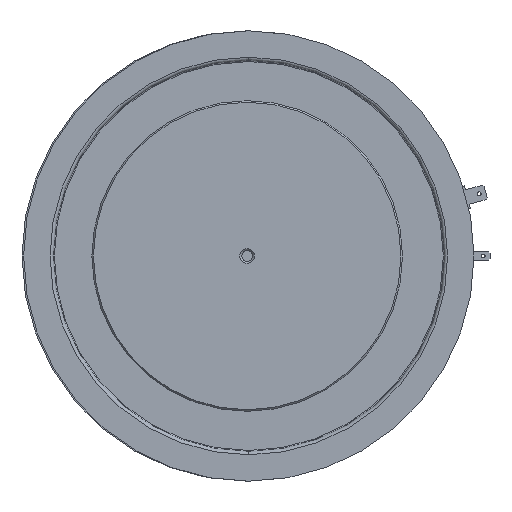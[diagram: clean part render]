
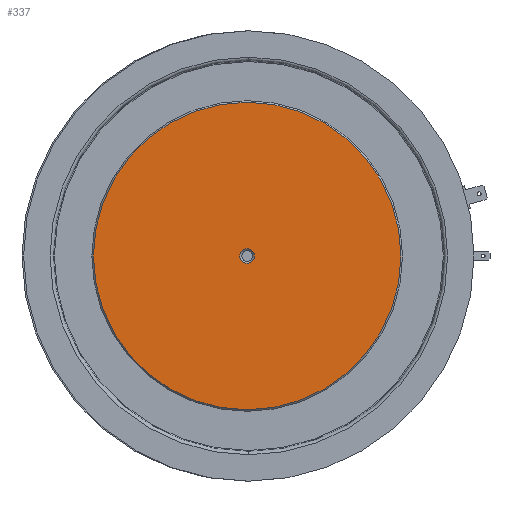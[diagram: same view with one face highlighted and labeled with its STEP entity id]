
A CAD part, front view. The second image highlights one B-rep face of the part: STEP entity #337.
In plain terms, the highlighted planar face has unit normal (0, -1, 0).
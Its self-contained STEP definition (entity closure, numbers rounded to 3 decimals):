
#322 = DIRECTION ( 'NONE',  ( -1., 0., 0. ) ) ;
#337 = ADVANCED_FACE ( 'NONE', ( #3325, #3488 ), #3814, .F. ) ;
#338 = EDGE_LOOP ( 'NONE', ( #2592, #1079 ) ) ;
#424 = VERTEX_POINT ( 'NONE', #1798 ) ;
#1079 = ORIENTED_EDGE ( 'NONE', *, *, #6461, .F. ) ;
#1329 = EDGE_CURVE ( 'NONE', #2764, #424, #4462, .T. ) ;
#1508 = CARTESIAN_POINT ( 'NONE',  ( 0., -35., 0. ) ) ;
#1703 = CARTESIAN_POINT ( 'NONE',  ( -2.35, -35., 0. ) ) ;
#1798 = CARTESIAN_POINT ( 'NONE',  ( 2.35, -35., 0. ) ) ;
#2040 = DIRECTION ( 'NONE',  ( 0., 1., 0. ) ) ;
#2085 = CARTESIAN_POINT ( 'NONE',  ( 49.5, -35., 0. ) ) ;
#2371 = CARTESIAN_POINT ( 'NONE',  ( 0., -35., 0. ) ) ;
#2537 = DIRECTION ( 'NONE',  ( -1., 0., 0. ) ) ;
#2592 = ORIENTED_EDGE ( 'NONE', *, *, #4260, .F. ) ;
#2626 = AXIS2_PLACEMENT_3D ( 'NONE', #4271, #4846, #5458 ) ;
#2764 = VERTEX_POINT ( 'NONE', #1703 ) ;
#2890 = DIRECTION ( 'NONE',  ( 0., 1., 0. ) ) ;
#3120 = EDGE_CURVE ( 'NONE', #424, #2764, #3822, .T. ) ;
#3139 = AXIS2_PLACEMENT_3D ( 'NONE', #1508, #6820, #4634 ) ;
#3178 = CIRCLE ( 'NONE', #4279, 49.5 ) ;
#3228 = EDGE_LOOP ( 'NONE', ( #4733, #6062 ) ) ;
#3325 = FACE_OUTER_BOUND ( 'NONE', #338, .T. ) ;
#3342 = CIRCLE ( 'NONE', #3914, 49.5 ) ;
#3488 = FACE_BOUND ( 'NONE', #3228, .T. ) ;
#3554 = CARTESIAN_POINT ( 'NONE',  ( 0., -35., 0. ) ) ;
#3814 = PLANE ( 'NONE',  #2626 ) ;
#3822 = CIRCLE ( 'NONE', #3139, 2.35 ) ;
#3914 = AXIS2_PLACEMENT_3D ( 'NONE', #3554, #2040, #2537 ) ;
#3992 = CARTESIAN_POINT ( 'NONE',  ( -49.5, -35., 0. ) ) ;
#4260 = EDGE_CURVE ( 'NONE', #5365, #6629, #3178, .T. ) ;
#4271 = CARTESIAN_POINT ( 'NONE',  ( -49.5, -35., 0. ) ) ;
#4279 = AXIS2_PLACEMENT_3D ( 'NONE', #2371, #2890, #322 ) ;
#4406 = DIRECTION ( 'NONE',  ( -1., 0., 0. ) ) ;
#4462 = CIRCLE ( 'NONE', #6299, 2.35 ) ;
#4634 = DIRECTION ( 'NONE',  ( -1., 0., 0. ) ) ;
#4733 = ORIENTED_EDGE ( 'NONE', *, *, #3120, .T. ) ;
#4846 = DIRECTION ( 'NONE',  ( 0., 1., 0. ) ) ;
#4947 = DIRECTION ( 'NONE',  ( 0., 1., 0. ) ) ;
#5365 = VERTEX_POINT ( 'NONE', #3992 ) ;
#5458 = DIRECTION ( 'NONE',  ( -1., 0., 0. ) ) ;
#6062 = ORIENTED_EDGE ( 'NONE', *, *, #1329, .T. ) ;
#6299 = AXIS2_PLACEMENT_3D ( 'NONE', #6790, #4947, #4406 ) ;
#6461 = EDGE_CURVE ( 'NONE', #6629, #5365, #3342, .T. ) ;
#6629 = VERTEX_POINT ( 'NONE', #2085 ) ;
#6790 = CARTESIAN_POINT ( 'NONE',  ( 0., -35., 0. ) ) ;
#6820 = DIRECTION ( 'NONE',  ( 0., 1., 0. ) ) ;
